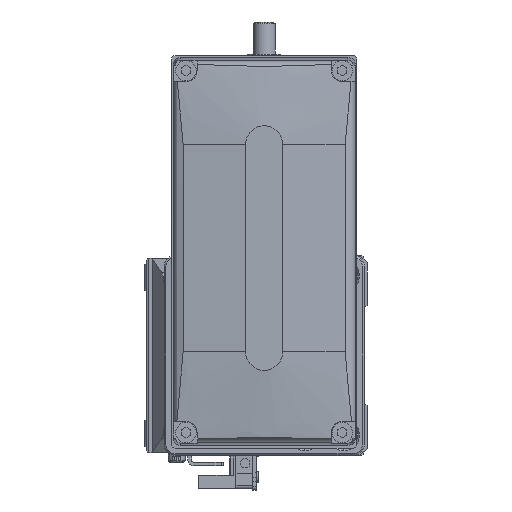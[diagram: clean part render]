
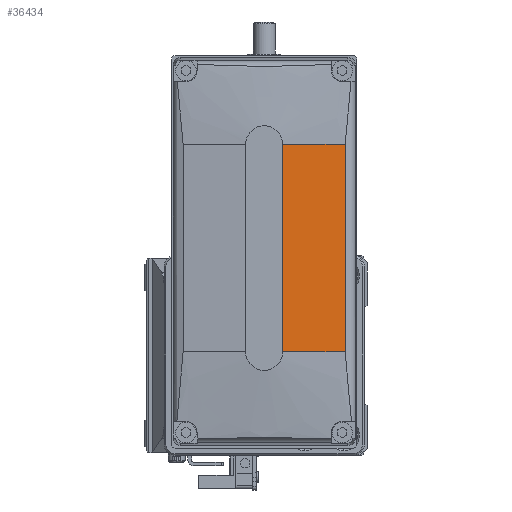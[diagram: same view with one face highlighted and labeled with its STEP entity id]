
A CAD part, left-side view. The second image highlights one B-rep face of the part: STEP entity #36434.
In plain terms, the highlighted planar face has unit normal (-0.996, -0.087, 0) as drawn and (-0.996, 0, -0.087) by its records, which use the part's own axes.
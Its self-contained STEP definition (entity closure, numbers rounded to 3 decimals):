
#1055 = CARTESIAN_POINT ( 'NONE',  ( -50., 128., -5. ) ) ;
#2251 = PLANE ( 'NONE',  #23778 ) ;
#4501 = CARTESIAN_POINT ( 'NONE',  ( -48.525, 128., -21.861 ) ) ;
#8745 = LINE ( 'NONE', #1055, #31580 ) ;
#9355 = LINE ( 'NONE', #33051, #27973 ) ;
#9765 = EDGE_CURVE ( 'NONE', #12539, #34842, #9355, .T. ) ;
#12344 = CARTESIAN_POINT ( 'NONE',  ( -48.525, 28., -21.861 ) ) ;
#12539 = VERTEX_POINT ( 'NONE', #28269 ) ;
#12560 = LINE ( 'NONE', #29542, #35879 ) ;
#13194 = DIRECTION ( 'NONE',  ( 0., 1., 0. ) ) ;
#13927 = DIRECTION ( 'NONE',  ( -0.996, 0., -0.087 ) ) ;
#15182 = DIRECTION ( 'NONE',  ( 0.087, 0., -0.996 ) ) ;
#16022 = EDGE_CURVE ( 'NONE', #26322, #30275, #12560, .T. ) ;
#18014 = EDGE_LOOP ( 'NONE', ( #23881, #36679, #32207, #29729 ) ) ;
#19870 = DIRECTION ( 'NONE',  ( -0.087, 0., 0.996 ) ) ;
#20425 = DIRECTION ( 'NONE',  ( -0.087, 0., 0.996 ) ) ;
#20645 = EDGE_CURVE ( 'NONE', #34842, #26322, #27586, .T. ) ;
#23778 = AXIS2_PLACEMENT_3D ( 'NONE', #34655, #13927, #19870 ) ;
#23881 = ORIENTED_EDGE ( 'NONE', *, *, #16022, .F. ) ;
#26084 = CARTESIAN_POINT ( 'NONE',  ( -48.525, -28., -21.861 ) ) ;
#26322 = VERTEX_POINT ( 'NONE', #12344 ) ;
#27468 = DIRECTION ( 'NONE',  ( 0., 1., 0. ) ) ;
#27586 = LINE ( 'NONE', #4501, #34611 ) ;
#27973 = VECTOR ( 'NONE', #15182, 1000. ) ;
#28269 = CARTESIAN_POINT ( 'NONE',  ( -50., -28., -5. ) ) ;
#29542 = CARTESIAN_POINT ( 'NONE',  ( 43606.406, 28., -499000. ) ) ;
#29729 = ORIENTED_EDGE ( 'NONE', *, *, #30885, .T. ) ;
#30275 = VERTEX_POINT ( 'NONE', #33398 ) ;
#30404 = FACE_OUTER_BOUND ( 'NONE', #18014, .T. ) ;
#30885 = EDGE_CURVE ( 'NONE', #12539, #30275, #8745, .T. ) ;
#31580 = VECTOR ( 'NONE', #27468, 1000. ) ;
#32207 = ORIENTED_EDGE ( 'NONE', *, *, #9765, .F. ) ;
#33051 = CARTESIAN_POINT ( 'NONE',  ( 43606.406, -28., -499000. ) ) ;
#33398 = CARTESIAN_POINT ( 'NONE',  ( -50., 28., -5. ) ) ;
#34611 = VECTOR ( 'NONE', #13194, 1000. ) ;
#34655 = CARTESIAN_POINT ( 'NONE',  ( -50., 128., -5. ) ) ;
#34842 = VERTEX_POINT ( 'NONE', #26084 ) ;
#35879 = VECTOR ( 'NONE', #20425, 1000. ) ;
#36434 = ADVANCED_FACE ( 'NONE', ( #30404 ), #2251, .T. ) ;
#36679 = ORIENTED_EDGE ( 'NONE', *, *, #20645, .F. ) ;
